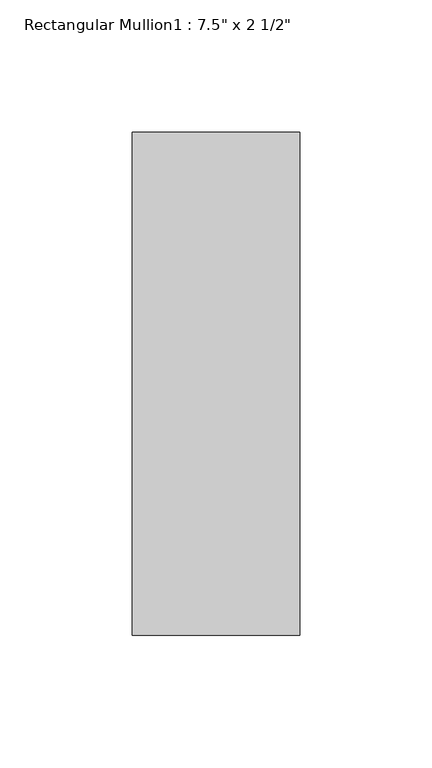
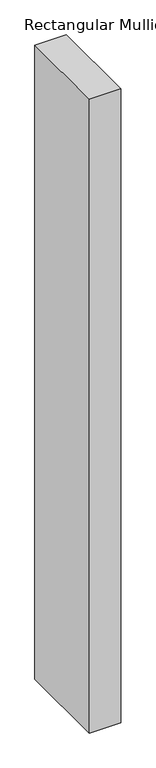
"""IFC4 building model written with IfcOpenShell, lengths in millimetres: member geometry."""

import ifcopenshell
import ifcopenshell.guid

model = None  # the IFC model being written
_history = None  # IfcOwnerHistory: only IFC2X3 demands one
_inside = {}  # id of a spatial element -> (the spatial element, [elements in it])
_under = {}  # id of a project, library or spatial element -> (it, [spatial elements below it])
_declared = {}  # id of a project -> (the project, [libraries it declares])
_typed = {}  # id of a type object -> (the type object, [elements of that type])
_made_of = {}  # id of a material, layer set ... -> (it, [elements and type objects made of it])


def new_model(schema):
    """Start an empty IFC model of exactly this schema.

    Asked for "IFC4X3", IfcOpenShell would pick the latest addendum, in which some entities
    have other attributes; the version numbers below select the first issue.
    IFC2X3 requires an IfcOwnerHistory on every rooted entity: one is made here for all.
    """
    global model, _history
    if schema == "IFC4X3":
        model = ifcopenshell.file(schema_version=(4, 3, 0, 0))
    else:
        model = ifcopenshell.file(schema=schema)
    _inside.clear()
    _under.clear()
    _declared.clear()
    _typed.clear()
    _made_of.clear()
    _history = None
    if model.schema == "IFC2X3":
        org = make("IfcOrganization", Name="unknown")
        user = make(
            "IfcPersonAndOrganization",
            ThePerson=make("IfcPerson", FamilyName="unknown"),
            TheOrganization=org,
        )
        app = make(
            "IfcApplication",
            ApplicationDeveloper=org,
            Version="unknown",
            ApplicationFullName="unknown",
            ApplicationIdentifier="unknown",
        )
        _history = make(
            "IfcOwnerHistory",
            OwningUser=user,
            OwningApplication=app,
            ChangeAction="ADDED",
            CreationDate=0,
        )
    return model


def make(cls, **values):
    """One entity of the class cls with the attributes given. An attribute that is None is left unset."""
    return model.create_entity(
        cls, **{name: value for name, value in values.items() if value is not None}
    )


def rooted(cls, **values):
    """An entity with a GlobalId (a new one), such as an element, a storey or a relation."""
    return make(cls, GlobalId=ifcopenshell.guid.new(), OwnerHistory=_history, **values)


def si_unit(unit_type, name, prefix=None):
    """IfcSIUnit, for example si_unit("LENGTHUNIT", "METRE", prefix="MILLI")."""
    return make("IfcSIUnit", UnitType=unit_type, Prefix=prefix, Name=name)


def assignment(units):
    """IfcUnitAssignment: the units of a project."""
    return None if units is None else make("IfcUnitAssignment", Units=units)


def point(xyz):
    """IfcCartesianPoint."""
    return None if xyz is None else make("IfcCartesianPoint", Coordinates=xyz)


def direction(xyz):
    """IfcDirection."""
    return None if xyz is None else make("IfcDirection", DirectionRatios=xyz)


def frame(location, z_axis=None, x_axis=None):
    """IfcAxis2Placement3D, a coordinate frame: its origin and axes. An axis left out is left unset."""
    return make(
        "IfcAxis2Placement3D",
        Location=point(location),
        Axis=direction(z_axis),
        RefDirection=direction(x_axis),
    )


def origin():
    """The frame at (0, 0, 0) with its axes left unset."""
    return frame((0.0, 0.0, 0.0))


def place(relative_to, where):
    """IfcLocalPlacement: puts the frame where relative to a parent placement (None: the world)."""
    return make(
        "IfcLocalPlacement", PlacementRelTo=relative_to, RelativePlacement=where
    )


def context(
    kind, dimensions, precision=None, world=None, true_north=None, identifier=None
):
    """IfcGeometricRepresentationContext, for example the 3D "Model" context."""
    return make(
        "IfcGeometricRepresentationContext",
        ContextIdentifier=identifier,
        ContextType=kind,
        CoordinateSpaceDimension=dimensions,
        Precision=precision,
        WorldCoordinateSystem=world,
        TrueNorth=true_north,
    )


def project(units=None, contexts=None):
    """IfcProject with its units and contexts."""
    return rooted(
        "IfcProject",
        Name="project",
        RepresentationContexts=contexts,
        UnitsInContext=assignment(units),
    )


def spatial(cls, under=None, at=None, **own):
    """A site, building, storey or space (cls), placed at a placement, below another one or the project."""
    s = rooted(cls, ObjectPlacement=at, **own)
    if under is not None:
        _under.setdefault(under.id(), (under, []))[1].append(s)
    return s


def polyline(points):
    """IfcPolyline through the points."""
    return make("IfcPolyline", Points=[point(p) for p in points])


def outline(outer, holes=None, kind="AREA"):
    """IfcArbitraryClosedProfileDef: a profile drawn as a closed curve; with holes, ...WithVoids."""
    if holes is None:
        return make("IfcArbitraryClosedProfileDef", ProfileType=kind, OuterCurve=outer)
    return make(
        "IfcArbitraryProfileDefWithVoids",
        ProfileType=kind,
        OuterCurve=outer,
        InnerCurves=holes,
    )


def extrude(swept, where, along, depth):
    """IfcExtrudedAreaSolid: the profile swept, set in the frame where, extruded along a direction by depth."""
    return make(
        "IfcExtrudedAreaSolid",
        SweptArea=swept,
        Position=where,
        ExtrudedDirection=direction(along),
        Depth=depth,
    )


def shape(context_of_items, identifier, shape_type, items):
    """IfcShapeRepresentation: the items that make up one representation, for example the "Body"."""
    return make(
        "IfcShapeRepresentation",
        ContextOfItems=context_of_items,
        RepresentationIdentifier=identifier,
        RepresentationType=shape_type,
        Items=items,
    )


def source(mapping_origin, context_of_items, identifier, shape_type, items):
    """IfcRepresentationMap: a shape defined once, which mapped items show again and again."""
    return make(
        "IfcRepresentationMap",
        MappingOrigin=mapping_origin,
        MappedRepresentation=shape(context_of_items, identifier, shape_type, items),
    )


def transform(
    local_origin,
    x_axis=None,
    y_axis=None,
    z_axis=None,
    scale=None,
    scale2=None,
    scale3=None,
    uniform=True,
):
    """IfcCartesianTransformationOperator3D, or its non-uniform kind. x_axis, y_axis, z_axis: its Axis1, 2, 3."""
    if uniform:
        return make(
            "IfcCartesianTransformationOperator3D",
            Axis1=direction(x_axis),
            Axis2=direction(y_axis),
            LocalOrigin=point(local_origin),
            Scale=scale,
            Axis3=direction(z_axis),
        )
    return make(
        "IfcCartesianTransformationOperator3DnonUniform",
        Axis1=direction(x_axis),
        Axis2=direction(y_axis),
        LocalOrigin=point(local_origin),
        Scale=scale,
        Axis3=direction(z_axis),
        Scale2=scale2,
        Scale3=scale3,
    )


def mapped(mapping_source, mapping_target):
    """IfcMappedItem: shows the shape of a source again, moved by a transform."""
    return make(
        "IfcMappedItem", MappingSource=mapping_source, MappingTarget=mapping_target
    )


def made_of(thing, what):
    """Note that an element or type object is made of a material, layer set ...; save() writes the relation."""
    if what is not None:
        _made_of.setdefault(what.id(), (what, []))[1].append(thing)
    return thing


def element(
    cls,
    number,
    at=None,
    inside=None,
    cuts=None,
    type_object=None,
    material=None,
    context=None,
    identifier="Body",
    shape_type=None,
    held_by="IfcProductDefinitionShape",
    body=None,
    shapes=None,
    **own,
):
    """One element of the class cls, such as IfcWall. Its Tag is "e" and its number.

    at: its placement. inside: the storey or other place that contains it. cuts: it is an
    opening in that element (IfcRelVoidsElement). A single representation is given by context,
    identifier, shape_type and body (its items); several are given by shapes. held_by: the class
    of the entity that holds the representations. save() writes the other relations.
    """
    e = rooted(cls, Tag="e%d" % number, ObjectPlacement=at, **own)
    if body is not None:
        shapes = [shape(context, identifier, shape_type, body)]
    if shapes is not None:
        e.Representation = make(held_by, Representations=shapes)
    if inside is not None:
        _inside.setdefault(inside.id(), (inside, []))[1].append(e)
    if cuts is not None:
        rooted(
            "IfcRelVoidsElement", RelatingBuildingElement=cuts, RelatedOpeningElement=e
        )
    if type_object is not None:
        _typed.setdefault(type_object.id(), (type_object, []))[1].append(e)
    return made_of(e, material)


def aggregate(whole, parts):
    """IfcRelAggregates: a whole, such as a stair, and the parts it consists of."""
    return rooted("IfcRelAggregates", RelatingObject=whole, RelatedObjects=parts)


def save(model, path):
    """Write the relations noted so far, then the file.

    IfcRelAggregates (storeys below a building ...), IfcRelContainedInSpatialStructure (elements
    in a storey), IfcRelDefinesByType, IfcRelAssociatesMaterial and IfcRelDeclares: one each for
    every whole, place, type object, material and project.
    """
    for whole, parts in _under.values():
        aggregate(whole, parts)
    for where, things in _inside.values():
        rooted(
            "IfcRelContainedInSpatialStructure",
            RelatedElements=things,
            RelatingStructure=where,
        )
    for kind, things in _typed.values():
        rooted("IfcRelDefinesByType", RelatedObjects=things, RelatingType=kind)
    for what, things in _made_of.values():
        rooted("IfcRelAssociatesMaterial", RelatedObjects=things, RelatingMaterial=what)
    for by, libraries in _declared.values():
        rooted("IfcRelDeclares", RelatingContext=by, RelatedDefinitions=libraries)
    model.write(path)


def member_4aac4358(model_context):
    return source(origin(), model_context, "Body", "SweptSolid", [
        extrude(outline(polyline([(-63.5, -165.1), (-63.5, 25.4), (0.0, 25.4), (0.0, -165.1), (-63.5, -165.1)])), frame((0.0, 0.0, -1353.3926944), z_axis=(0.0, 0.0, 1.0), x_axis=(1.0, 0.0, 0.0)), (0.0, 0.0, 1.0), 1353.3926944),
    ])


if __name__ == "__main__":
    model = new_model("IFC4")
    model_context = context("Model", 3, world=origin())
    ifc_project = project(units=[si_unit("LENGTHUNIT", "METRE", prefix="MILLI")], contexts=[model_context])
    site = spatial("IfcSite", under=ifc_project)
    building = spatial("IfcBuilding", under=site)
    placement = place(None, origin())
    member_shape = member_4aac4358(model_context)
    element("IfcMember", 1, ObjectType="Rectangular Mullion1 : 7.5\" x 2 1/2\"", at=placement, inside=building, context=model_context, shape_type="MappedRepresentation", body=[
        mapped(member_shape, transform((0.0, 0.0, 0.0), x_axis=(1.0, 0.0, 0.0), y_axis=(0.0, 1.0, 0.0), z_axis=(0.0, 0.0, 1.0))),
    ])
    save(model, "model.ifc")
